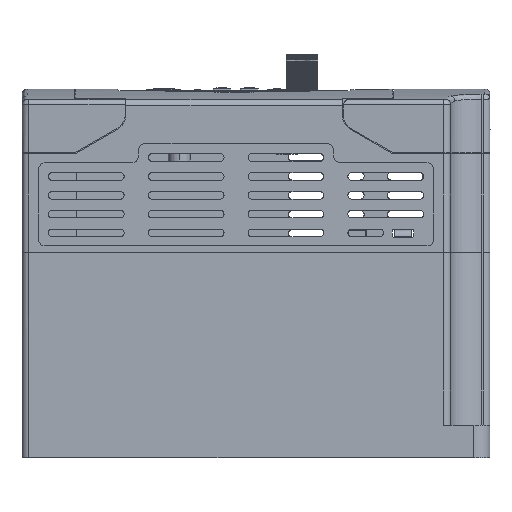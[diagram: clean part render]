
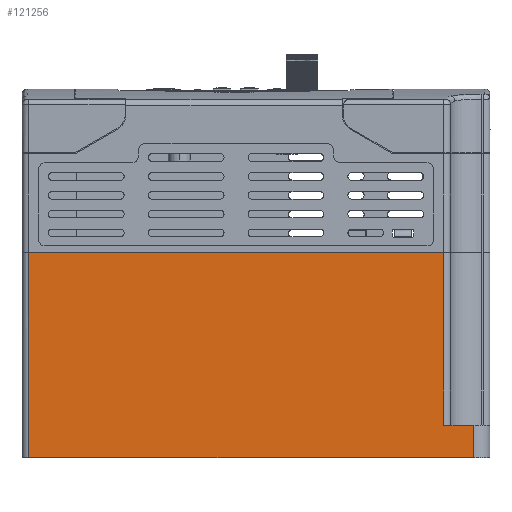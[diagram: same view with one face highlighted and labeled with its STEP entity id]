
A CAD part, left-side view. The second image highlights one B-rep face of the part: STEP entity #121256.
In plain terms, the highlighted planar face has unit normal (-1, 0, 0).
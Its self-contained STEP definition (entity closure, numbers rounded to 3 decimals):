
#2885 = EDGE_CURVE ( 'NONE', #168568, #15205, #151563, .T. ) ;
#8163 = VERTEX_POINT ( 'NONE', #111699 ) ;
#11328 = VECTOR ( 'NONE', #58736, 1000. ) ;
#12612 = VERTEX_POINT ( 'NONE', #150789 ) ;
#15205 = VERTEX_POINT ( 'NONE', #185289 ) ;
#15575 = CARTESIAN_POINT ( 'NONE',  ( -817.425, -14.977, 0. ) ) ;
#18808 = ORIENTED_EDGE ( 'NONE', *, *, #2885, .T. ) ;
#23132 = EDGE_CURVE ( 'NONE', #15205, #171035, #71720, .T. ) ;
#23721 = DIRECTION ( 'NONE',  ( 0., 0., 1. ) ) ;
#29855 = LINE ( 'NONE', #142581, #99569 ) ;
#35318 = DIRECTION ( 'NONE',  ( -1., 0., 0. ) ) ;
#35814 = ORIENTED_EDGE ( 'NONE', *, *, #23132, .T. ) ;
#43651 = DIRECTION ( 'NONE',  ( 0., 0., -1. ) ) ;
#47771 = B_SPLINE_CURVE_WITH_KNOTS ( 'NONE', 3,
 ( #15575, #104665, #149377, #60484 ),
 .UNSPECIFIED., .F., .F.,
 ( 4, 4 ),
 ( 0., 1. ),
 .UNSPECIFIED. ) ;
#50938 = LINE ( 'NONE', #87972, #11328 ) ;
#58736 = DIRECTION ( 'NONE',  ( 0., 1., 0. ) ) ;
#58789 = AXIS2_PLACEMENT_3D ( 'NONE', #124367, #35318, #139228 ) ;
#60484 = CARTESIAN_POINT ( 'NONE',  ( -817.425, -149.977, 0. ) ) ;
#61814 = EDGE_CURVE ( 'NONE', #171035, #8163, #47771, .T. ) ;
#64638 = PLANE ( 'NONE',  #58789 ) ;
#69637 = CARTESIAN_POINT ( 'NONE',  ( -817.425, -14.977, 0. ) ) ;
#71664 = EDGE_CURVE ( 'NONE', #186662, #168568, #29855, .T. ) ;
#71720 = LINE ( 'NONE', #118316, #145999 ) ;
#87972 = CARTESIAN_POINT ( 'NONE',  ( -817.425, -14.977, 9.9 ) ) ;
#88161 = EDGE_LOOP ( 'NONE', ( #114576, #18808, #35814, #121836, #105077, #91576 ) ) ;
#91576 = ORIENTED_EDGE ( 'NONE', *, *, #160622, .T. ) ;
#97723 = CARTESIAN_POINT ( 'NONE',  ( -817.425, -149.977, 0. ) ) ;
#99569 = VECTOR ( 'NONE', #23721, 1000. ) ;
#103306 = LINE ( 'NONE', #97723, #138002 ) ;
#104665 = CARTESIAN_POINT ( 'NONE',  ( -817.425, -59.977, 0. ) ) ;
#105077 = ORIENTED_EDGE ( 'NONE', *, *, #158774, .F. ) ;
#107488 = VECTOR ( 'NONE', #161584, 1000. ) ;
#111699 = CARTESIAN_POINT ( 'NONE',  ( -817.425, -149.977, 0. ) ) ;
#112674 = DIRECTION ( 'NONE',  ( 0., 0., -1. ) ) ;
#114576 = ORIENTED_EDGE ( 'NONE', *, *, #71664, .T. ) ;
#114636 = CARTESIAN_POINT ( 'NONE',  ( -817.425, -140.988, 9.9 ) ) ;
#118316 = CARTESIAN_POINT ( 'NONE',  ( -817.425, -14.977, 0. ) ) ;
#119364 = FACE_OUTER_BOUND ( 'NONE', #88161, .T. ) ;
#121256 = ADVANCED_FACE ( 'NONE', ( #119364 ), #64638, .T. ) ;
#121836 = ORIENTED_EDGE ( 'NONE', *, *, #61814, .T. ) ;
#124367 = CARTESIAN_POINT ( 'NONE',  ( -817.425, -14.977, 0. ) ) ;
#138002 = VECTOR ( 'NONE', #112674, 1000. ) ;
#139228 = DIRECTION ( 'NONE',  ( 0., 0., 1. ) ) ;
#142581 = CARTESIAN_POINT ( 'NONE',  ( -817.425, -140.988, 0. ) ) ;
#145999 = VECTOR ( 'NONE', #43651, 1000. ) ;
#149377 = CARTESIAN_POINT ( 'NONE',  ( -817.425, -104.977, 0. ) ) ;
#150789 = CARTESIAN_POINT ( 'NONE',  ( -817.425, -149.977, 9.9 ) ) ;
#151211 = CARTESIAN_POINT ( 'NONE',  ( -817.425, -140.988, 62.3 ) ) ;
#151563 = LINE ( 'NONE', #176510, #107488 ) ;
#158774 = EDGE_CURVE ( 'NONE', #12612, #8163, #103306, .T. ) ;
#160622 = EDGE_CURVE ( 'NONE', #12612, #186662, #50938, .T. ) ;
#161584 = DIRECTION ( 'NONE',  ( 0., 1., 0. ) ) ;
#168568 = VERTEX_POINT ( 'NONE', #151211 ) ;
#171035 = VERTEX_POINT ( 'NONE', #69637 ) ;
#176510 = CARTESIAN_POINT ( 'NONE',  ( -817.425, -14.977, 62.3 ) ) ;
#185289 = CARTESIAN_POINT ( 'NONE',  ( -817.425, -14.977, 62.3 ) ) ;
#186662 = VERTEX_POINT ( 'NONE', #114636 ) ;
